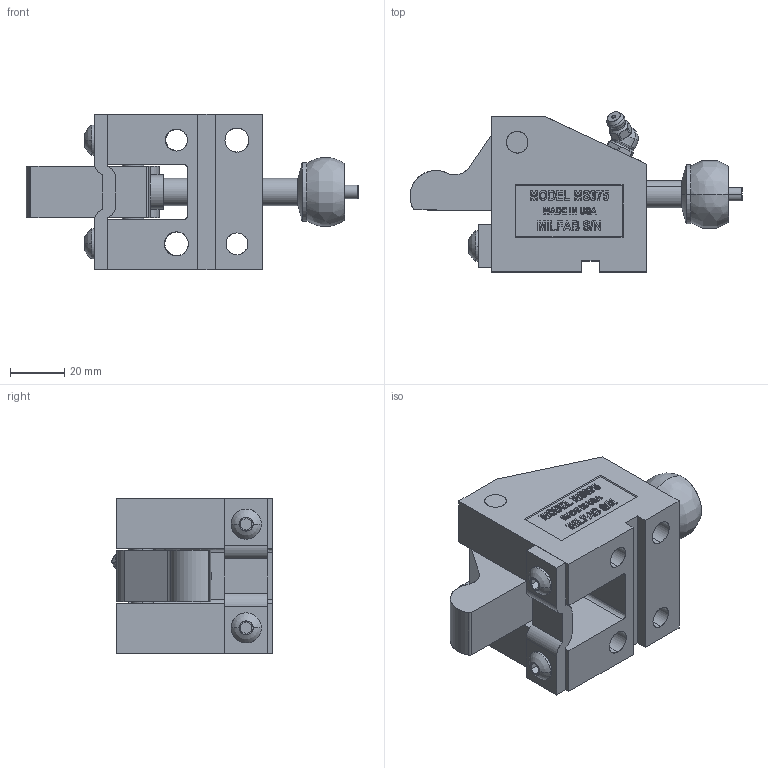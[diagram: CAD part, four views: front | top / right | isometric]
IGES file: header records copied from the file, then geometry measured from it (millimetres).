
Start section: SolidWorks IGES file using analytic representation for surfaces
Global section: file name: Y:\3\MS37545\CLOSED\MS37545-C.IGS; native system: SolidWorks 2006 by SolidWorks Corporation; preprocessor: SolidWorks 2006 by SolidWorks Corporation; author: Jim; date: 090126.144741; units: inch
Bounding box: 121.9 x 58.85 x 57.15 mm (x, y, z)
Surface area: 44760.3 mm2 (no closed solid volume)
Topology: 0 solids, 0 shells, 591 faces, 7314 edges, 7312 vertices
Faces by surface type: bspline 465, revolution 126
